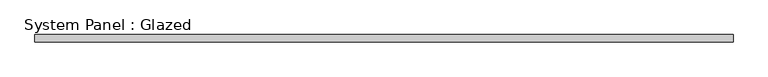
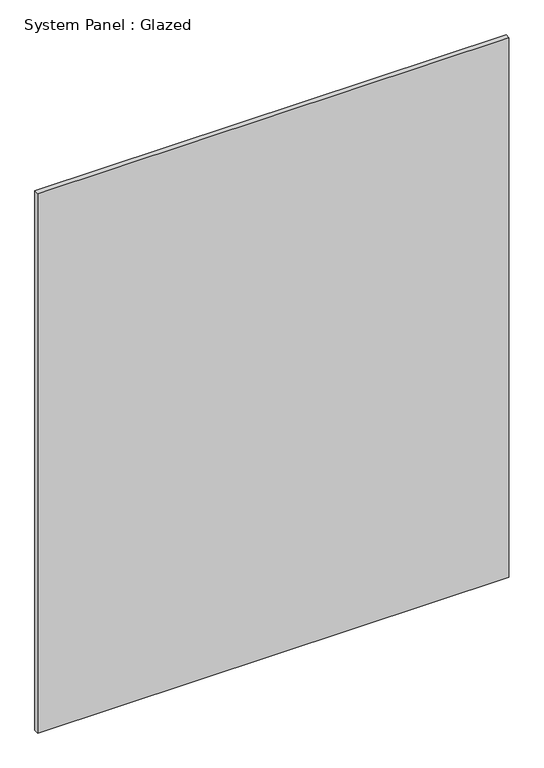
"""IFC4 building model written with IfcOpenShell, lengths in millimetres: plate geometry, System Panel : Glazed."""

from ifc_helpers import new_model, si_unit, origin, origin_with_axes, place, context, project, spatial, polyline, outline, extrude, source, transform, mapped, element, save


def system_panel_glazed_d8e6d469(model_context):
    return source(origin(), model_context, "Body", "SweptSolid", [
        extrude(outline(polyline([(1246.1875, 19.05), (-1246.1875, 19.05), (-1246.1875, 44.45), (1246.1875, 44.45), (1246.1875, 19.05)])), origin_with_axes(), (0.0, 0.0, 1.0), 3016.25),
    ])


if __name__ == "__main__":
    model = new_model("IFC4")
    model_context = context("Model", 3, world=origin())
    ifc_project = project(units=[si_unit("LENGTHUNIT", "METRE", prefix="MILLI")], contexts=[model_context])
    site = spatial("IfcSite", under=ifc_project)
    building = spatial("IfcBuilding", under=site)
    placement = place(None, origin())
    system_panel_glazed_shape = system_panel_glazed_d8e6d469(model_context)
    element("IfcPlate", 1, ObjectType="System Panel : Glazed", at=placement, inside=building, context=model_context, shape_type="MappedRepresentation", body=[
        mapped(system_panel_glazed_shape, transform((0.0, 0.0, 0.0), x_axis=(1.0, 0.0, 0.0), y_axis=(0.0, 1.0, 0.0), z_axis=(0.0, 0.0, 1.0))),
    ])
    save(model, "model.ifc")
